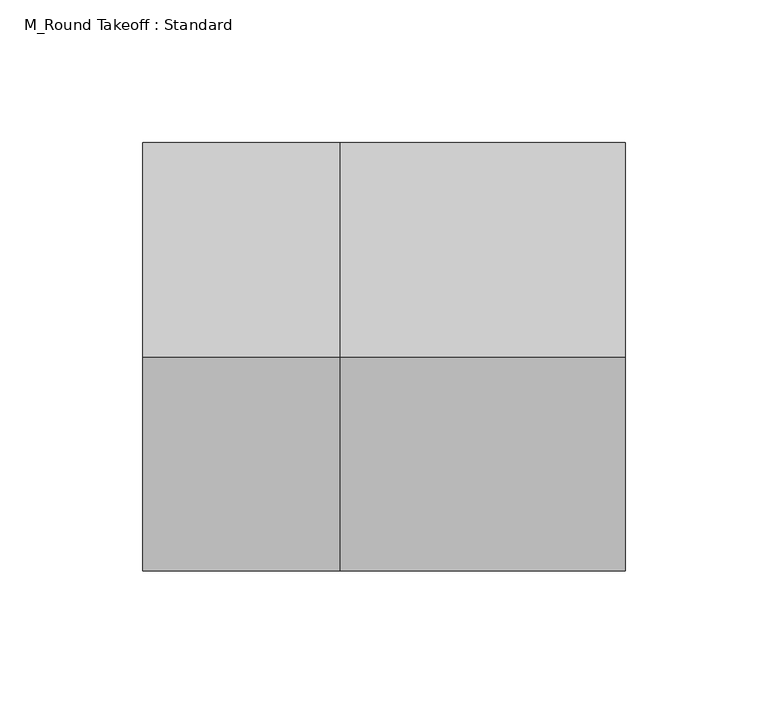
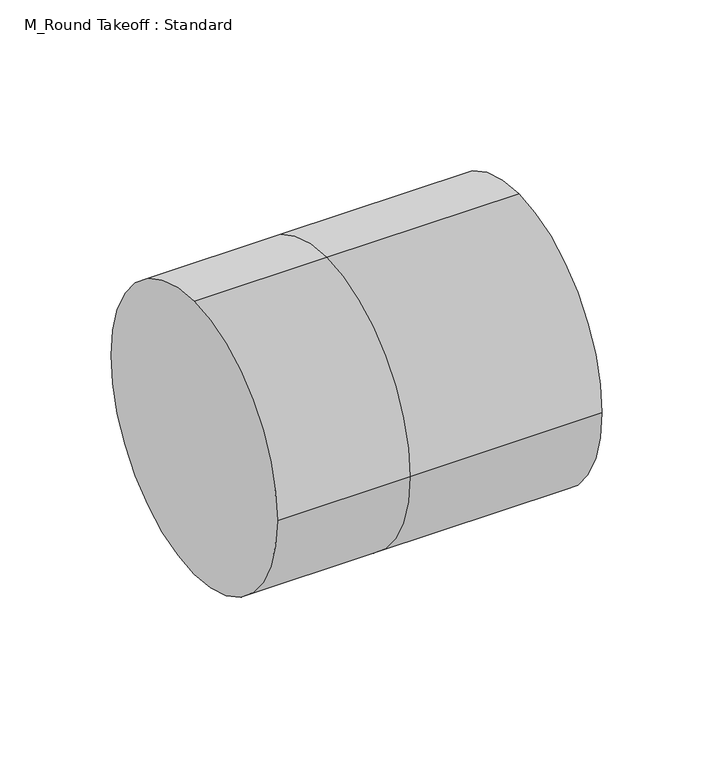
"""IFC4 building model written with IfcOpenShell, lengths in millimetres: duct fitting geometry, M_Round Takeoff : Standard."""

import ifcopenshell
import ifcopenshell.guid

model = None  # the IFC model being written
_history = None  # IfcOwnerHistory: only IFC2X3 demands one
_inside = {}  # id of a spatial element -> (the spatial element, [elements in it])
_under = {}  # id of a project, library or spatial element -> (it, [spatial elements below it])
_declared = {}  # id of a project -> (the project, [libraries it declares])
_typed = {}  # id of a type object -> (the type object, [elements of that type])
_made_of = {}  # id of a material, layer set ... -> (it, [elements and type objects made of it])


def new_model(schema):
    """Start an empty IFC model of exactly this schema.

    Asked for "IFC4X3", IfcOpenShell would pick the latest addendum, in which some entities
    have other attributes; the version numbers below select the first issue.
    IFC2X3 requires an IfcOwnerHistory on every rooted entity: one is made here for all.
    """
    global model, _history
    if schema == "IFC4X3":
        model = ifcopenshell.file(schema_version=(4, 3, 0, 0))
    else:
        model = ifcopenshell.file(schema=schema)
    _inside.clear()
    _under.clear()
    _declared.clear()
    _typed.clear()
    _made_of.clear()
    _history = None
    if model.schema == "IFC2X3":
        org = make("IfcOrganization", Name="unknown")
        user = make(
            "IfcPersonAndOrganization",
            ThePerson=make("IfcPerson", FamilyName="unknown"),
            TheOrganization=org,
        )
        app = make(
            "IfcApplication",
            ApplicationDeveloper=org,
            Version="unknown",
            ApplicationFullName="unknown",
            ApplicationIdentifier="unknown",
        )
        _history = make(
            "IfcOwnerHistory",
            OwningUser=user,
            OwningApplication=app,
            ChangeAction="ADDED",
            CreationDate=0,
        )
    return model


def make(cls, **values):
    """One entity of the class cls with the attributes given. An attribute that is None is left unset."""
    return model.create_entity(
        cls, **{name: value for name, value in values.items() if value is not None}
    )


def rooted(cls, **values):
    """An entity with a GlobalId (a new one), such as an element, a storey or a relation."""
    return make(cls, GlobalId=ifcopenshell.guid.new(), OwnerHistory=_history, **values)


def si_unit(unit_type, name, prefix=None):
    """IfcSIUnit, for example si_unit("LENGTHUNIT", "METRE", prefix="MILLI")."""
    return make("IfcSIUnit", UnitType=unit_type, Prefix=prefix, Name=name)


def assignment(units):
    """IfcUnitAssignment: the units of a project."""
    return None if units is None else make("IfcUnitAssignment", Units=units)


def point(xyz):
    """IfcCartesianPoint."""
    return None if xyz is None else make("IfcCartesianPoint", Coordinates=xyz)


def direction(xyz):
    """IfcDirection."""
    return None if xyz is None else make("IfcDirection", DirectionRatios=xyz)


def frame(location, z_axis=None, x_axis=None):
    """IfcAxis2Placement3D, a coordinate frame: its origin and axes. An axis left out is left unset."""
    return make(
        "IfcAxis2Placement3D",
        Location=point(location),
        Axis=direction(z_axis),
        RefDirection=direction(x_axis),
    )


def origin():
    """The frame at (0, 0, 0) with its axes left unset."""
    return frame((0.0, 0.0, 0.0))


def place(relative_to, where):
    """IfcLocalPlacement: puts the frame where relative to a parent placement (None: the world)."""
    return make(
        "IfcLocalPlacement", PlacementRelTo=relative_to, RelativePlacement=where
    )


def context(
    kind, dimensions, precision=None, world=None, true_north=None, identifier=None
):
    """IfcGeometricRepresentationContext, for example the 3D "Model" context."""
    return make(
        "IfcGeometricRepresentationContext",
        ContextIdentifier=identifier,
        ContextType=kind,
        CoordinateSpaceDimension=dimensions,
        Precision=precision,
        WorldCoordinateSystem=world,
        TrueNorth=true_north,
    )


def project(units=None, contexts=None):
    """IfcProject with its units and contexts."""
    return rooted(
        "IfcProject",
        Name="project",
        RepresentationContexts=contexts,
        UnitsInContext=assignment(units),
    )


def spatial(cls, under=None, at=None, **own):
    """A site, building, storey or space (cls), placed at a placement, below another one or the project."""
    s = rooted(cls, ObjectPlacement=at, **own)
    if under is not None:
        _under.setdefault(under.id(), (under, []))[1].append(s)
    return s


def circle_curve(where, radius):
    """IfcCircle in the frame where."""
    return make("IfcCircle", Position=where, Radius=radius)


def shape(context_of_items, identifier, shape_type, items):
    """IfcShapeRepresentation: the items that make up one representation, for example the "Body"."""
    return make(
        "IfcShapeRepresentation",
        ContextOfItems=context_of_items,
        RepresentationIdentifier=identifier,
        RepresentationType=shape_type,
        Items=items,
    )


def source(mapping_origin, context_of_items, identifier, shape_type, items):
    """IfcRepresentationMap: a shape defined once, which mapped items show again and again."""
    return make(
        "IfcRepresentationMap",
        MappingOrigin=mapping_origin,
        MappedRepresentation=shape(context_of_items, identifier, shape_type, items),
    )


def transform(
    local_origin,
    x_axis=None,
    y_axis=None,
    z_axis=None,
    scale=None,
    scale2=None,
    scale3=None,
    uniform=True,
):
    """IfcCartesianTransformationOperator3D, or its non-uniform kind. x_axis, y_axis, z_axis: its Axis1, 2, 3."""
    if uniform:
        return make(
            "IfcCartesianTransformationOperator3D",
            Axis1=direction(x_axis),
            Axis2=direction(y_axis),
            LocalOrigin=point(local_origin),
            Scale=scale,
            Axis3=direction(z_axis),
        )
    return make(
        "IfcCartesianTransformationOperator3DnonUniform",
        Axis1=direction(x_axis),
        Axis2=direction(y_axis),
        LocalOrigin=point(local_origin),
        Scale=scale,
        Axis3=direction(z_axis),
        Scale2=scale2,
        Scale3=scale3,
    )


def mapped(mapping_source, mapping_target):
    """IfcMappedItem: shows the shape of a source again, moved by a transform."""
    return make(
        "IfcMappedItem", MappingSource=mapping_source, MappingTarget=mapping_target
    )


def made_of(thing, what):
    """Note that an element or type object is made of a material, layer set ...; save() writes the relation."""
    if what is not None:
        _made_of.setdefault(what.id(), (what, []))[1].append(thing)
    return thing


def element(
    cls,
    number,
    at=None,
    inside=None,
    cuts=None,
    type_object=None,
    material=None,
    context=None,
    identifier="Body",
    shape_type=None,
    held_by="IfcProductDefinitionShape",
    body=None,
    shapes=None,
    **own,
):
    """One element of the class cls, such as IfcWall. Its Tag is "e" and its number.

    at: its placement. inside: the storey or other place that contains it. cuts: it is an
    opening in that element (IfcRelVoidsElement). A single representation is given by context,
    identifier, shape_type and body (its items); several are given by shapes. held_by: the class
    of the entity that holds the representations. save() writes the other relations.
    """
    e = rooted(cls, Tag="e%d" % number, ObjectPlacement=at, **own)
    if body is not None:
        shapes = [shape(context, identifier, shape_type, body)]
    if shapes is not None:
        e.Representation = make(held_by, Representations=shapes)
    if inside is not None:
        _inside.setdefault(inside.id(), (inside, []))[1].append(e)
    if cuts is not None:
        rooted(
            "IfcRelVoidsElement", RelatingBuildingElement=cuts, RelatedOpeningElement=e
        )
    if type_object is not None:
        _typed.setdefault(type_object.id(), (type_object, []))[1].append(e)
    return made_of(e, material)


def aggregate(whole, parts):
    """IfcRelAggregates: a whole, such as a stair, and the parts it consists of."""
    return rooted("IfcRelAggregates", RelatingObject=whole, RelatedObjects=parts)


def save(model, path):
    """Write the relations noted so far, then the file.

    IfcRelAggregates (storeys below a building ...), IfcRelContainedInSpatialStructure (elements
    in a storey), IfcRelDefinesByType, IfcRelAssociatesMaterial and IfcRelDeclares: one each for
    every whole, place, type object, material and project.
    """
    for whole, parts in _under.values():
        aggregate(whole, parts)
    for where, things in _inside.values():
        rooted(
            "IfcRelContainedInSpatialStructure",
            RelatedElements=things,
            RelatingStructure=where,
        )
    for kind, things in _typed.values():
        rooted("IfcRelDefinesByType", RelatedObjects=things, RelatingType=kind)
    for what, things in _made_of.values():
        rooted("IfcRelAssociatesMaterial", RelatedObjects=things, RelatingMaterial=what)
    for by, libraries in _declared.values():
        rooted("IfcRelDeclares", RelatingContext=by, RelatedDefinitions=libraries)
    model.write(path)


def plane_surface(at):
    """IfcPlane: the flat surface through the origin of the frame at, square to its z axis."""
    return make("IfcPlane", Position=at)


def cylinder_surface(at, radius):
    """IfcCylindricalSurface: all points at the distance radius from the z axis of the frame at."""
    return make("IfcCylindricalSurface", Position=at, Radius=radius)


def advanced_brep(points, edges, surfaces, faces):
    """IfcAdvancedBrep: a solid bounded by faces that lie on surfaces and meet in shared edges.

    An edge is (start, end): straight between two places in points (the first is 0);
    or (start, end, curve); or (start, end, curve, False) where it runs against its curve.
    A face is (place in surfaces, loops), or (place, loops, False) where it looks against
    its surface's normal. A loop lists edges by number (the first is 1), with a minus sign
    where the edge is run from its end to its start. The first loop is the outer one.
    """
    corners = [point(p) for p in points]
    vertices = [make("IfcVertexPoint", VertexGeometry=c) for c in corners]
    made = []
    for start, end, *more in edges:
        made.append(
            make(
                "IfcEdgeCurve",
                EdgeStart=vertices[start],
                EdgeEnd=vertices[end],
                EdgeGeometry=more[0] if more else make("IfcPolyline", Points=[corners[start], corners[end]]),
                SameSense=more[1] if len(more) > 1 else True,
            )
        )
    hull = []
    for where, loops, *sense in faces:
        bounds = []
        for j, loop in enumerate(loops):
            ring = [make("IfcOrientedEdge", EdgeElement=made[abs(k) - 1], Orientation=k > 0) for k in loop]
            bounds.append(
                make(
                    "IfcFaceOuterBound" if j == 0 else "IfcFaceBound",
                    Bound=make("IfcEdgeLoop", EdgeList=ring),
                    Orientation=True,
                )
            )
        hull.append(make("IfcAdvancedFace", Bounds=bounds, FaceSurface=surfaces[where], SameSense=sense[0] if sense else True))
    return make("IfcAdvancedBrep", Outer=make("IfcClosedShell", CfsFaces=hull))


def m_round_takeoff_standard_501f709b(model_context):
    return source(origin(), model_context, "Body", "AdvancedBrep", [
        advanced_brep(
        [(-68.904, 0.0, 75.0), (-68.904, 75.0, 0.0), (-68.904, 0.0, -75.0), (-68.904, -75.0, 0.0), (0.0, 0.0, 75.0), (0.0, 75.0, 0.0), (0.0, 0.0, -75.0), (0.0, -75.0, 0.0), (100.0, 0.0, 75.0), (100.0, -75.0, 0.0), (100.0, 0.0, -75.0), (100.0, 75.0, 0.0)],
        [
            (0, 1, circle_curve(frame((-68.904, 0.0, 0.0), z_axis=(-1.0, 0.0, 0.0), x_axis=(0.0, 1.0, 0.0)), 75.0)),
            (1, 2, circle_curve(frame((-68.904, 0.0, 0.0), z_axis=(-1.0, 0.0, 0.0), x_axis=(0.0, 1.0, 0.0)), 75.0)),
            (2, 3, circle_curve(frame((-68.904, 0.0, 0.0), z_axis=(-1.0, 0.0, 0.0), x_axis=(0.0, 1.0, 0.0)), 75.0)),
            (3, 0, circle_curve(frame((-68.904, 0.0, 0.0), z_axis=(-1.0, 0.0, 0.0), x_axis=(0.0, 1.0, 0.0)), 75.0)),
            (0, 4),
            (4, 5, circle_curve(frame((0.0, 0.0, 0.0), z_axis=(-1.0, 0.0, 0.0), x_axis=(0.0, 1.0, 0.0)), 75.0)),
            (5, 1),
            (5, 6, circle_curve(frame((0.0, 0.0, 0.0), z_axis=(-1.0, 0.0, 0.0), x_axis=(0.0, 1.0, 0.0)), 75.0)),
            (6, 2),
            (6, 7, circle_curve(frame((0.0, 0.0, 0.0), z_axis=(-1.0, 0.0, 0.0), x_axis=(0.0, 1.0, 0.0)), 75.0)),
            (7, 3),
            (7, 4, circle_curve(frame((0.0, 0.0, 0.0), z_axis=(-1.0, 0.0, 0.0), x_axis=(0.0, 1.0, 0.0)), 75.0)),
            (8, 9, circle_curve(frame((100.0, 0.0, 0.0), z_axis=(1.0, 0.0, 0.0), x_axis=(0.0, 1.0, 0.0)), 75.0)),
            (9, 10, circle_curve(frame((100.0, 0.0, 0.0), z_axis=(1.0, 0.0, 0.0), x_axis=(0.0, 1.0, 0.0)), 75.0)),
            (10, 11, circle_curve(frame((100.0, 0.0, 0.0), z_axis=(1.0, 0.0, 0.0), x_axis=(0.0, 1.0, 0.0)), 75.0)),
            (11, 8, circle_curve(frame((100.0, 0.0, 0.0), z_axis=(1.0, 0.0, 0.0), x_axis=(0.0, 1.0, 0.0)), 75.0)),
            (11, 5),
            (4, 8),
            (10, 6),
            (9, 7),
        ],
        [
            plane_surface(frame((-68.904, 0.0, 0.0), z_axis=(-1.0, 0.0, 0.0), x_axis=(0.0, 0.0, 1.0))),
            cylinder_surface(frame((-68.904, 0.0, 0.0), z_axis=(-1.0, 0.0, 0.0), x_axis=(0.0, 1.0, 0.0)), 75.0),
            plane_surface(frame((100.0, 0.0, 0.0), z_axis=(1.0, 0.0, 0.0), x_axis=(0.0, 0.0, 1.0))),
            cylinder_surface(frame((0.0, 0.0, 0.0), z_axis=(-1.0, 0.0, 0.0), x_axis=(0.0, 1.0, 0.0)), 75.0),
        ],
        [
            (0, [[1, 2, 3, 4]]),
            (1, [[-1, 5, 6, 7]]),
            (1, [[-2, -7, 8, 9]]),
            (1, [[-3, -9, 10, 11]]),
            (1, [[-4, -11, 12, -5]]),
            (2, [[13, 14, 15, 16]]),
            (3, [[-16, 17, -6, 18]]),
            (3, [[-15, 19, -8, -17]]),
            (3, [[-14, 20, -10, -19]]),
            (3, [[-13, -18, -12, -20]]),
        ],
    ),
        advanced_brep(
        [(100.0, 0.0, 75.0), (100.0, -75.0, 0.0), (100.0, 0.0, -75.0), (100.0, 75.0, 0.0), (0.0, 75.0, 0.0), (0.0, 0.0, 75.0), (0.0, 0.0, -75.0), (0.0, -75.0, 0.0), (-68.904, 0.0, 75.0), (-68.904, 75.0, 0.0), (-68.904, 0.0, -75.0), (-68.904, -75.0, 0.0)],
        [
            (0, 1, circle_curve(frame((100.0, 0.0, 0.0), z_axis=(1.0, 0.0, 0.0), x_axis=(0.0, 1.0, 0.0)), 75.0)),
            (1, 2, circle_curve(frame((100.0, 0.0, 0.0), z_axis=(1.0, 0.0, 0.0), x_axis=(0.0, 1.0, 0.0)), 75.0)),
            (2, 3, circle_curve(frame((100.0, 0.0, 0.0), z_axis=(1.0, 0.0, 0.0), x_axis=(0.0, 1.0, 0.0)), 75.0)),
            (3, 0, circle_curve(frame((100.0, 0.0, 0.0), z_axis=(1.0, 0.0, 0.0), x_axis=(0.0, 1.0, 0.0)), 75.0)),
            (3, 4),
            (4, 5, circle_curve(frame((0.0, 0.0, 0.0), z_axis=(1.0, 0.0, 0.0), x_axis=(0.0, 1.0, 0.0)), 75.0)),
            (5, 0),
            (2, 6),
            (6, 4, circle_curve(frame((0.0, 0.0, 0.0), z_axis=(1.0, 0.0, 0.0), x_axis=(0.0, 1.0, 0.0)), 75.0)),
            (1, 7),
            (7, 6, circle_curve(frame((0.0, 0.0, 0.0), z_axis=(1.0, 0.0, 0.0), x_axis=(0.0, 1.0, 0.0)), 75.0)),
            (5, 7, circle_curve(frame((0.0, 0.0, 0.0), z_axis=(1.0, 0.0, 0.0), x_axis=(0.0, 1.0, 0.0)), 75.0)),
            (8, 9, circle_curve(frame((-68.904, 0.0, 0.0), z_axis=(-1.0, 0.0, 0.0), x_axis=(0.0, 1.0, 0.0)), 75.0)),
            (9, 10, circle_curve(frame((-68.904, 0.0, 0.0), z_axis=(-1.0, 0.0, 0.0), x_axis=(0.0, 1.0, 0.0)), 75.0)),
            (10, 11, circle_curve(frame((-68.904, 0.0, 0.0), z_axis=(-1.0, 0.0, 0.0), x_axis=(0.0, 1.0, 0.0)), 75.0)),
            (11, 8, circle_curve(frame((-68.904, 0.0, 0.0), z_axis=(-1.0, 0.0, 0.0), x_axis=(0.0, 1.0, 0.0)), 75.0)),
            (8, 5),
            (4, 9),
            (6, 10),
            (7, 11),
        ],
        [
            plane_surface(frame((100.0, 0.0, 0.0), z_axis=(1.0, 0.0, 0.0), x_axis=(0.0, 0.0, 1.0))),
            cylinder_surface(frame((0.0, 0.0, 0.0), z_axis=(-1.0, 0.0, 0.0), x_axis=(0.0, 1.0, 0.0)), 75.0),
            plane_surface(frame((-68.904, 0.0, 0.0), z_axis=(-1.0, 0.0, 0.0), x_axis=(0.0, 0.0, 1.0))),
            cylinder_surface(frame((-68.904, 0.0, 0.0), z_axis=(-1.0, 0.0, 0.0), x_axis=(0.0, 1.0, 0.0)), 75.0),
        ],
        [
            (0, [[1, 2, 3, 4]]),
            (1, [[-4, 5, 6, 7]]),
            (1, [[-3, 8, 9, -5]]),
            (1, [[-2, 10, 11, -8]]),
            (1, [[-1, -7, 12, -10]]),
            (2, [[13, 14, 15, 16]]),
            (3, [[-13, 17, -6, 18]]),
            (3, [[-14, -18, -9, 19]]),
            (3, [[-15, -19, -11, 20]]),
            (3, [[-16, -20, -12, -17]]),
        ],
    ),
        advanced_brep(
        [(-68.904, 0.0, 75.0), (-68.904, 75.0, 0.0), (-68.904, 0.0, -75.0), (-68.904, -75.0, 0.0), (0.0, 0.0, 75.0), (0.0, 75.0, 0.0), (0.0, 0.0, -75.0), (0.0, -75.0, 0.0), (100.0, 0.0, 75.0), (100.0, -75.0, 0.0), (100.0, 0.0, -75.0), (100.0, 75.0, 0.0)],
        [
            (0, 1, circle_curve(frame((-68.904, 0.0, 0.0), z_axis=(-1.0, 0.0, 0.0), x_axis=(0.0, 1.0, 0.0)), 75.0)),
            (1, 2, circle_curve(frame((-68.904, 0.0, 0.0), z_axis=(-1.0, 0.0, 0.0), x_axis=(0.0, 1.0, 0.0)), 75.0)),
            (2, 3, circle_curve(frame((-68.904, 0.0, 0.0), z_axis=(-1.0, 0.0, 0.0), x_axis=(0.0, 1.0, 0.0)), 75.0)),
            (3, 0, circle_curve(frame((-68.904, 0.0, 0.0), z_axis=(-1.0, 0.0, 0.0), x_axis=(0.0, 1.0, 0.0)), 75.0)),
            (0, 4),
            (4, 5, circle_curve(frame((0.0, 0.0, 0.0), z_axis=(-1.0, 0.0, 0.0), x_axis=(0.0, 1.0, 0.0)), 75.0)),
            (5, 1),
            (5, 6, circle_curve(frame((0.0, 0.0, 0.0), z_axis=(-1.0, 0.0, 0.0), x_axis=(0.0, 1.0, 0.0)), 75.0)),
            (6, 2),
            (6, 7, circle_curve(frame((0.0, 0.0, 0.0), z_axis=(-1.0, 0.0, 0.0), x_axis=(0.0, 1.0, 0.0)), 75.0)),
            (7, 3),
            (7, 4, circle_curve(frame((0.0, 0.0, 0.0), z_axis=(-1.0, 0.0, 0.0), x_axis=(0.0, 1.0, 0.0)), 75.0)),
            (8, 9, circle_curve(frame((100.0, 0.0, 0.0), z_axis=(1.0, 0.0, 0.0), x_axis=(0.0, 1.0, 0.0)), 75.0)),
            (9, 10, circle_curve(frame((100.0, 0.0, 0.0), z_axis=(1.0, 0.0, 0.0), x_axis=(0.0, 1.0, 0.0)), 75.0)),
            (10, 11, circle_curve(frame((100.0, 0.0, 0.0), z_axis=(1.0, 0.0, 0.0), x_axis=(0.0, 1.0, 0.0)), 75.0)),
            (11, 8, circle_curve(frame((100.0, 0.0, 0.0), z_axis=(1.0, 0.0, 0.0), x_axis=(0.0, 1.0, 0.0)), 75.0)),
            (11, 5),
            (4, 8),
            (10, 6),
            (9, 7),
        ],
        [
            plane_surface(frame((-68.904, 0.0, 0.0), z_axis=(-1.0, 0.0, 0.0), x_axis=(0.0, 0.0, 1.0))),
            cylinder_surface(frame((-68.904, 0.0, 0.0), z_axis=(-1.0, 0.0, 0.0), x_axis=(0.0, 1.0, 0.0)), 75.0),
            plane_surface(frame((100.0, 0.0, 0.0), z_axis=(1.0, 0.0, 0.0), x_axis=(0.0, 0.0, 1.0))),
            cylinder_surface(frame((0.0, 0.0, 0.0), z_axis=(-1.0, 0.0, 0.0), x_axis=(0.0, 1.0, 0.0)), 75.0),
        ],
        [
            (0, [[1, 2, 3, 4]]),
            (1, [[-1, 5, 6, 7]]),
            (1, [[-2, -7, 8, 9]]),
            (1, [[-3, -9, 10, 11]]),
            (1, [[-4, -11, 12, -5]]),
            (2, [[13, 14, 15, 16]]),
            (3, [[-16, 17, -6, 18]]),
            (3, [[-15, 19, -8, -17]]),
            (3, [[-14, 20, -10, -19]]),
            (3, [[-13, -18, -12, -20]]),
        ],
    ),
    ])


if __name__ == "__main__":
    model = new_model("IFC4")
    model_context = context("Model", 3, world=origin())
    ifc_project = project(units=[si_unit("LENGTHUNIT", "METRE", prefix="MILLI")], contexts=[model_context])
    site = spatial("IfcSite", under=ifc_project)
    building = spatial("IfcBuilding", under=site)
    placement = place(None, origin())
    m_round_takeoff_standard_shape = m_round_takeoff_standard_501f709b(model_context)
    element("IfcDuctFitting", 1, ObjectType="M_Round Takeoff : Standard", at=placement, inside=building, context=model_context, shape_type="MappedRepresentation", body=[
        mapped(m_round_takeoff_standard_shape, transform((0.0, 0.0, 0.0), x_axis=(1.0, 0.0, 0.0), y_axis=(0.0, 1.0, 0.0), z_axis=(0.0, 0.0, 1.0))),
    ])
    save(model, "model.ifc")
